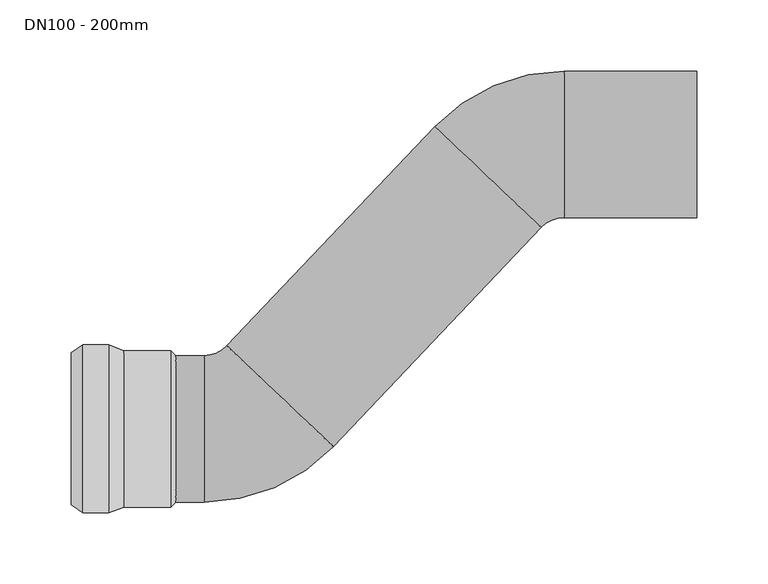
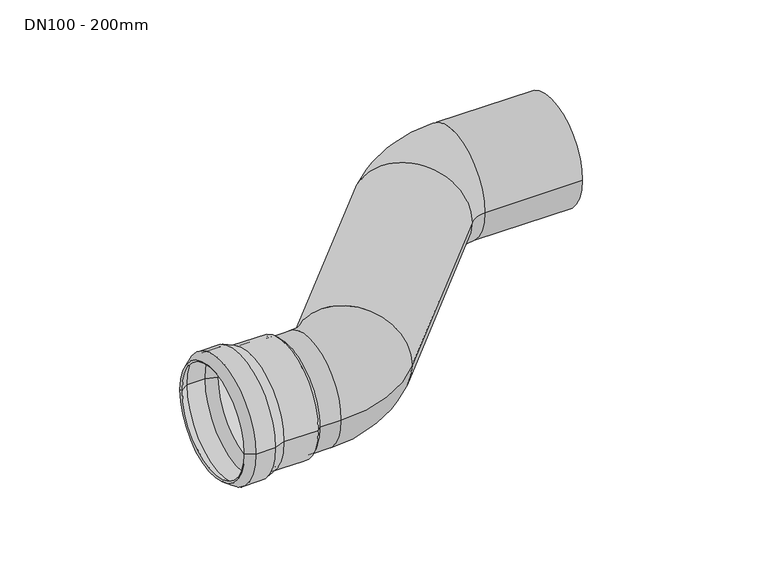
"""IFC4 building model written with IfcOpenShell, lengths in millimetres: valve geometry, PIA_ST_UN_GM-X s-bend_ACO : DN100 - 200mm."""

from ifc_helpers import new_model, si_unit, point, frame, origin, place, context, project, spatial, polyline, circle_curve, ellipse_curve, trimmed, source, transform, mapped, element, save
from ifc_brep_helpers import plane_surface, cylinder_surface, revolved_surface, advanced_brep


def dn100_200mm_8a0e546f(model_context):
    return source(origin(), model_context, "Body", "AdvancedBrep", [
        advanced_brep(
        [(-228.5, 59.0, 0.0), (-228.5, -59.0, 0.0), (-246.7, -59.0, 0.0), (-246.7, 59.0, 0.0), (-218.0, 55.0, 0.0), (-218.0, -55.0, 0.0), (-255.0, -53.5, 0.0), (-255.0, 53.5, 0.0), (-185.0, 55.0, 0.0), (-185.0, -55.0, 0.0), (-181.5, 51.5, 0.0), (-181.5, -51.5, 0.0), (-185.0, 51.5, 0.0), (-185.0, -51.5, 0.0), (-218.3680513, 53.0, 0.0), (-218.3680513, -53.0, 0.0), (-185.0, -53.0, 0.0), (-185.0, 53.0, 0.0), (-228.8680513, 57.0, 0.0), (-228.8680513, -57.0, 0.0), (-246.0974883, 57.0, 0.0), (-246.0974883, -57.0, 0.0), (-253.8952393, 51.8328156, 0.0), (-253.8952393, -51.8328156, 0.0)],
        [
            (0, 1, circle_curve(frame((-228.5, 0.0, 0.0), z_axis=(-1.0, 0.0, 0.0), x_axis=(0.0, -1.0, 0.0)), 59.0)),
            (1, 2),
            (2, 3, circle_curve(frame((-246.7, 0.0, 0.0), z_axis=(1.0, 0.0, 0.0), x_axis=(0.0, -1.0, 0.0)), 59.0)),
            (3, 0),
            (1, 0, circle_curve(frame((-228.5, 0.0, 0.0), z_axis=(-1.0, 0.0, 0.0), x_axis=(0.0, -1.0, 0.0)), 59.0)),
            (3, 2, circle_curve(frame((-246.7, 0.0, 0.0), z_axis=(1.0, 0.0, 0.0), x_axis=(0.0, -1.0, 0.0)), 59.0)),
            (4, 5, circle_curve(frame((-218.0, 0.0, 0.0), z_axis=(-1.0, 0.0, 0.0), x_axis=(0.0, -1.0, 0.0)), 55.0)),
            (5, 1),
            (0, 4),
            (5, 4, circle_curve(frame((-218.0, 0.0, 0.0), z_axis=(-1.0, 0.0, 0.0), x_axis=(0.0, -1.0, 0.0)), 55.0)),
            (2, 6),
            (6, 7, circle_curve(frame((-255.0, 0.0, 0.0), z_axis=(1.0, 0.0, 0.0), x_axis=(0.0, -1.0, 0.0)), 53.5)),
            (7, 3),
            (7, 6, circle_curve(frame((-255.0, 0.0, 0.0), z_axis=(1.0, 0.0, 0.0), x_axis=(0.0, -1.0, 0.0)), 53.5)),
            (8, 9, circle_curve(frame((-185.0, 0.0, 0.0), z_axis=(-1.0, 0.0, 0.0), x_axis=(0.0, -1.0, 0.0)), 55.0)),
            (9, 5),
            (4, 8),
            (9, 8, circle_curve(frame((-185.0, 0.0, 0.0), z_axis=(-1.0, 0.0, 0.0), x_axis=(0.0, -1.0, 0.0)), 55.0)),
            (10, 11, circle_curve(frame((-181.5, 0.0, 0.0), z_axis=(-1.0, 0.0, 0.0), x_axis=(0.0, -1.0, 0.0)), 51.5)),
            (11, 9),
            (8, 10),
            (11, 10, circle_curve(frame((-181.5, 0.0, 0.0), z_axis=(-1.0, 0.0, 0.0), x_axis=(0.0, -1.0, 0.0)), 51.5)),
            (12, 13, circle_curve(frame((-185.0, 0.0, 0.0), z_axis=(-1.0, 0.0, 0.0), x_axis=(0.0, -1.0, 0.0)), 51.5)),
            (13, 11),
            (10, 12),
            (13, 12, circle_curve(frame((-185.0, 0.0, 0.0), z_axis=(-1.0, 0.0, 0.0), x_axis=(0.0, -1.0, 0.0)), 51.5)),
            (14, 15, circle_curve(frame((-218.3680513, 0.0, 0.0), z_axis=(-1.0, 0.0, 0.0), x_axis=(0.0, -1.0, 0.0)), 53.0)),
            (15, 16),
            (16, 17, circle_curve(frame((-185.0, 0.0, 0.0), z_axis=(1.0, 0.0, 0.0), x_axis=(0.0, -1.0, 0.0)), 53.0)),
            (17, 14),
            (15, 14, circle_curve(frame((-218.3680513, 0.0, 0.0), z_axis=(-1.0, 0.0, 0.0), x_axis=(0.0, -1.0, 0.0)), 53.0)),
            (17, 16, circle_curve(frame((-185.0, 0.0, 0.0), z_axis=(1.0, 0.0, 0.0), x_axis=(0.0, -1.0, 0.0)), 53.0)),
            (18, 19, circle_curve(frame((-228.8680513, 0.0, 0.0), z_axis=(-1.0, 0.0, 0.0), x_axis=(0.0, -1.0, 0.0)), 57.0)),
            (19, 15),
            (14, 18),
            (19, 18, circle_curve(frame((-228.8680513, 0.0, 0.0), z_axis=(-1.0, 0.0, 0.0), x_axis=(0.0, -1.0, 0.0)), 57.0)),
            (20, 21, circle_curve(frame((-246.0974883, 0.0, 0.0), z_axis=(-1.0, 0.0, 0.0), x_axis=(0.0, -1.0, 0.0)), 57.0)),
            (21, 19),
            (18, 20),
            (21, 20, circle_curve(frame((-246.0974883, 0.0, 0.0), z_axis=(-1.0, 0.0, 0.0), x_axis=(0.0, -1.0, 0.0)), 57.0)),
            (22, 23, circle_curve(frame((-253.8952393, 0.0, 0.0), z_axis=(-1.0, 0.0, 0.0), x_axis=(0.0, -1.0, 0.0)), 51.8328156)),
            (23, 21),
            (20, 22),
            (23, 22, circle_curve(frame((-253.8952393, 0.0, 0.0), z_axis=(-1.0, 0.0, 0.0), x_axis=(0.0, -1.0, 0.0)), 51.8328156)),
            (6, 23),
            (22, 7),
            (16, 13),
            (12, 17),
        ],
        [
            cylinder_surface(frame((-251.6444117, 0.0, 0.0), z_axis=(1.0, 0.0, 0.0), x_axis=(0.0, -1.0, 0.0)), 59.0),
            revolved_surface(polyline([(-228.5, -59.0, 0.0), (-218.0, -55.0, 0.0)]), (-251.6444117, 0.0, 0.0), (1.0, 0.0, 0.0)),
            revolved_surface(polyline([(-255.0, -53.5, 0.0), (-246.7, -59.0, 0.0)]), (-251.6444117, 0.0, 0.0), (1.0, 0.0, 0.0)),
            cylinder_surface(frame((-251.6444117, 0.0, 0.0), z_axis=(1.0, 0.0, 0.0), x_axis=(0.0, -1.0, 0.0)), 55.0),
            revolved_surface(polyline([(-185.0, -55.0, 0.0), (-181.5, -51.5, 0.0)]), (-251.6444117, 0.0, 0.0), (1.0, 0.0, 0.0)),
            revolved_surface(polyline([(-181.5, -51.5, 0.0), (-185.0, -51.5, 0.0)]), (-251.6444117, 0.0, 0.0), (1.0, 0.0, 0.0)),
            revolved_surface(polyline([(-185.0, -53.0, 0.0), (-218.3680513, -53.0, 0.0)]), (-251.6444117, 0.0, 0.0), (1.0, 0.0, 0.0)),
            revolved_surface(polyline([(-218.3680513, -53.0, 0.0), (-228.8680513, -57.0, 0.0)]), (-251.6444117, 0.0, 0.0), (1.0, 0.0, 0.0)),
            revolved_surface(polyline([(-228.8680513, -57.0, 0.0), (-246.0974883, -57.0, 0.0)]), (-251.6444117, 0.0, 0.0), (1.0, 0.0, 0.0)),
            revolved_surface(polyline([(-246.0974883, -57.0, 0.0), (-253.8952393, -51.8328156, 0.0)]), (-251.6444117, 0.0, 0.0), (1.0, 0.0, 0.0)),
            revolved_surface(polyline([(-253.8952393, -51.8328156, 0.0), (-255.0, -53.5, 0.0)]), (-251.6444117, 0.0, 0.0), (1.0, 0.0, 0.0)),
            plane_surface(frame((-185.0, 0.0, 0.0), z_axis=(-1.0, 0.0, 0.0), x_axis=(0.0, -1.0, 0.0))),
        ],
        [
            (0, [[1, 2, 3, 4]]),
            (0, [[5, -4, 6, -2]]),
            (1, [[7, 8, -1, 9]]),
            (1, [[10, -9, -5, -8]]),
            (2, [[-3, 11, 12, 13]]),
            (2, [[-6, -13, 14, -11]]),
            (3, [[15, 16, -7, 17]]),
            (3, [[18, -17, -10, -16]]),
            (4, [[19, 20, -15, 21]]),
            (4, [[22, -21, -18, -20]]),
            (5, [[23, 24, -19, 25]]),
            (5, [[26, -25, -22, -24]]),
            (6, [[27, 28, 29, 30]]),
            (6, [[31, -30, 32, -28]]),
            (7, [[33, 34, -27, 35]]),
            (7, [[36, -35, -31, -34]]),
            (8, [[37, 38, -33, 39]]),
            (8, [[40, -39, -36, -38]]),
            (9, [[41, 42, -37, 43]]),
            (9, [[44, -43, -40, -42]]),
            (10, [[-12, 45, -41, 46]]),
            (10, [[-14, -46, -44, -45]]),
            (11, [[-29, 47, -23, 48]]),
            (11, [[-32, -48, -26, -47]]),
        ],
    ),
        advanced_brep(
        [(-185.0, -51.5, 0.0), (-185.0, 51.5, 0.0), (-161.55958, -51.5, 0.0), (-161.55958, 51.5, 0.0), (-145.4517986, 58.4204491, 0.0), (-70.7382383, -12.4800722, 0.0), (75.4588852, 141.5795509, 0.0), (0.745325, 212.4800722, 0.0), (91.5666667, 251.5, 0.0), (91.5666667, 148.5, 0.0), (185.0, 148.5, 0.0), (185.0, 251.5, 0.0)],
        [
            (0, 1, circle_curve(frame((-185.0, 0.0, 0.0), z_axis=(-1.0, 0.0, 0.0), x_axis=(0.0, 1.0, 0.0)), 51.5)),
            (1, 0, circle_curve(frame((-185.0, 0.0, 0.0), z_axis=(-1.0, 0.0, 0.0), x_axis=(0.0, 1.0, 0.0)), 51.5)),
            (0, 2),
            (2, 3, circle_curve(frame((-161.55958, 0.0, 0.0), z_axis=(-1.0, 0.0, 0.0), x_axis=(0.0, 1.0, 0.0)), 51.5)),
            (3, 1),
            (3, 2, circle_curve(frame((-161.55958, 0.0, 0.0), z_axis=(-1.0, 0.0, 0.0), x_axis=(0.0, 1.0, 0.0)), 51.5)),
            (4, 3, circle_curve(frame((-161.55958, 73.7061629, 0.0), z_axis=(0.0, 0.0, -1.0), x_axis=(0.0, -1.0, 0.0)), 22.2061629)),
            (2, 5, circle_curve(frame((-161.55958, 73.7061629, 0.0), z_axis=(0.0, 0.0, 1.0), x_axis=(0.0, -1.0, 0.0)), 125.2061629)),
            (5, 4, circle_curve(frame((-108.0950184, 22.9701884, 0.0), z_axis=(-0.6883545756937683, -0.725374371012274, 0.0), x_axis=(-0.725374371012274, 0.6883545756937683, 0.0)), 51.5)),
            (4, 5, circle_curve(frame((-108.0950184, 22.9701884, 0.0), z_axis=(-0.6883545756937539, -0.7253743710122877, 0.0), x_axis=(-0.7253743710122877, 0.6883545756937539, 0.0)), 51.5)),
            (5, 6),
            (6, 7, circle_curve(frame((38.1021051, 177.0298116, 0.0), z_axis=(-0.6883545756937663, -0.725374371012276, 0.0), x_axis=(-0.725374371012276, 0.6883545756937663, 0.0)), 51.5)),
            (7, 4),
            (7, 6, circle_curve(frame((38.1021051, 177.0298116, 0.0), z_axis=(-0.6883545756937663, -0.725374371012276, 0.0), x_axis=(-0.725374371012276, 0.6883545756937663, 0.0)), 51.5)),
            (8, 7, circle_curve(frame((91.5666667, 126.2938371, 0.0), z_axis=(0.0, 0.0, 1.0), x_axis=(-0.7253743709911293, 0.6883545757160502, 0.0)), 125.2061629)),
            (6, 9, circle_curve(frame((91.5666667, 126.2938371, 0.0), z_axis=(0.0, 0.0, -1.0), x_axis=(-0.7253743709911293, 0.6883545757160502, 0.0)), 22.2061629)),
            (9, 8, circle_curve(frame((91.5666667, 200.0, 0.0), z_axis=(-1.0, 0.0, 0.0), x_axis=(0.0, 1.0, 0.0)), 51.5)),
            (8, 9, circle_curve(frame((91.5666667, 200.0, 0.0), z_axis=(-1.0, 0.0, 0.0), x_axis=(0.0, 1.0, 0.0)), 51.5)),
            (10, 11, circle_curve(frame((185.0, 200.0, 0.0), z_axis=(1.0, 0.0, 0.0), x_axis=(0.0, 1.0, 0.0)), 51.5)),
            (11, 10, circle_curve(frame((185.0, 200.0, 0.0), z_axis=(1.0, 0.0, 0.0), x_axis=(0.0, 1.0, 0.0)), 51.5)),
            (9, 10),
            (11, 8),
        ],
        [
            plane_surface(frame((-185.0, 0.0, 0.0), z_axis=(-1.0, 0.0, 0.0), x_axis=(0.0, 0.0, 1.0))),
            cylinder_surface(frame((-185.0, 0.0, 0.0), z_axis=(-1.0, 0.0, 0.0), x_axis=(0.0, 1.0, 0.0)), 51.5),
            revolved_surface(trimmed(ellipse_curve(frame((-161.55958, 0.0, 0.0), z_axis=(-1.0, 0.0, 0.0), x_axis=(0.0, 1.0, 0.0)), 51.5, 51.5), [point((-161.55958, -51.5, 0.0))], [point((-161.55958, 51.5, 0.0))], True, "CARTESIAN"), (-161.55958, 73.7061629, 0.0), (0.0, 0.0, 1.0)),
            revolved_surface(trimmed(ellipse_curve(frame((-161.55958, 0.0, 0.0), z_axis=(-1.0, 0.0, 0.0), x_axis=(0.0, 1.0, 0.0)), 51.5, 51.5), [point((-161.55958, 51.5, 0.0))], [point((-161.55958, -51.5, 0.0))], True, "CARTESIAN"), (-161.55958, 73.7061629, 0.0), (0.0, 0.0, 1.0)),
            cylinder_surface(frame((-108.0950184, 22.9701884, 0.0), z_axis=(-0.6883545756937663, -0.725374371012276, 0.0), x_axis=(-0.725374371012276, 0.6883545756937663, 0.0)), 51.5),
            revolved_surface(trimmed(ellipse_curve(frame((38.1021051, 177.0298116, 0.0), z_axis=(-0.6883545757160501, -0.7253743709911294, 0.0), x_axis=(-0.7253743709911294, 0.6883545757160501, 0.0)), 51.5, 51.5), [point((75.4588852, 141.5795509, 0.0))], [point((0.745325, 212.4800722, 0.0))], True, "CARTESIAN"), (91.5666667, 126.2938371, 0.0), (0.0, 0.0, -1.0)),
            revolved_surface(trimmed(ellipse_curve(frame((38.1021051, 177.0298116, 0.0), z_axis=(-0.6883545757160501, -0.7253743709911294, 0.0), x_axis=(-0.7253743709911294, 0.6883545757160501, 0.0)), 51.5, 51.5), [point((0.745325, 212.4800722, 0.0))], [point((75.4588852, 141.5795509, 0.0))], True, "CARTESIAN"), (91.5666667, 126.2938371, 0.0), (0.0, 0.0, -1.0)),
            plane_surface(frame((185.0, 200.0, 0.0), z_axis=(1.0, 0.0, 0.0), x_axis=(0.0, 0.0, 1.0))),
            cylinder_surface(frame((91.5666667, 200.0, 0.0), z_axis=(-1.0, 0.0, 0.0), x_axis=(0.0, 1.0, 0.0)), 51.5),
        ],
        [
            (0, [[1, 2]]),
            (1, [[-1, 3, 4, 5]]),
            (1, [[-2, -5, 6, -3]]),
            (2, [[7, -4, 8, 9]]),
            (3, [[-8, -6, -7, 10]]),
            (4, [[-9, 11, 12, 13]]),
            (4, [[-10, -13, 14, -11]]),
            (5, [[15, -12, 16, 17]]),
            (6, [[-16, -14, -15, 18]]),
            (7, [[19, 20]]),
            (8, [[-17, 21, -20, 22]]),
            (8, [[-18, -22, -19, -21]]),
        ],
    ),
    ])


if __name__ == "__main__":
    model = new_model("IFC4")
    model_context = context("Model", 3, world=origin())
    ifc_project = project(units=[si_unit("LENGTHUNIT", "METRE", prefix="MILLI")], contexts=[model_context])
    site = spatial("IfcSite", under=ifc_project)
    building = spatial("IfcBuilding", under=site)
    placement = place(None, origin())
    dn100_200mm_shape = dn100_200mm_8a0e546f(model_context)
    element("IfcValve", 1, ObjectType="PIA_ST_UN_GM-X s-bend_ACO : DN100 - 200mm", at=placement, inside=building, context=model_context, shape_type="MappedRepresentation", body=[
        mapped(dn100_200mm_shape, transform((0.0, 0.0, 0.0), x_axis=(1.0, 0.0, 0.0), y_axis=(0.0, 1.0, 0.0), z_axis=(0.0, 0.0, 1.0))),
    ])
    save(model, "model.ifc")
